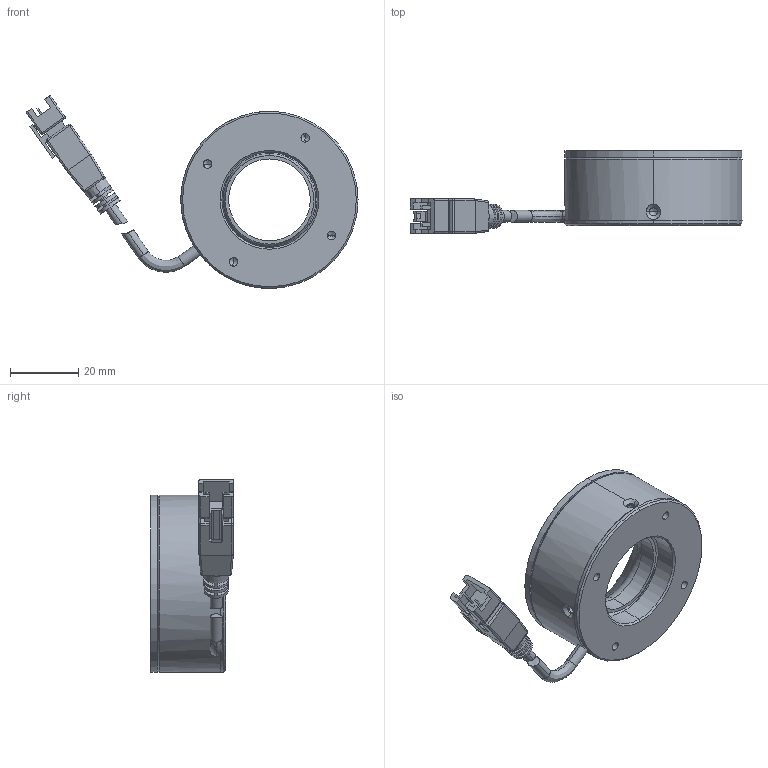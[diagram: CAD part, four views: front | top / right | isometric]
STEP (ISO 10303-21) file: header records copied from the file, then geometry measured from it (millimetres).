
FILE_DESCRIPTION (( 'STEP AP203' ), '1' );
FILE_NAME ('P-RL-52-45-2-00.STEP', '2026-03-13T07:13:45', ( '' ), ( '' ), 'SwSTEP 2.0', 'SolidWorks 2022', '' );
FILE_SCHEMA (( 'CONFIG_CONTROL_DESIGN' ));
Length unit declared in the file: millimetre
Products named in the file (6): P-RL-52-45-2-002; 光源线; P-RL-52-45-2-003; 灯珠-00; P-RL-52-45-2-00; P-RL-52-45-2-001
Assembly tree (5 placements, depth 2):
  P-RL-52-45-2-00
    P-RL-52-45-2-001
    P-RL-52-45-2-002
    P-RL-52-45-2-003
    灯珠-00
    光源线
Bounding box: 97.47 x 24.31 x 56.62 mm (x, y, z)
Volume: 21088.6 mm3; surface area: 21549.9 mm2
Topology: 7 solids, 7 shells, 365 faces, 907 edges, 538 vertices
Faces by surface type: plane 131, cylinder 122, cone 68, torus 24, bspline 20
Entity records: 12320 total; most frequent: CARTESIAN_POINT 3236, DIRECTION 1792, ORIENTED_EDGE 1742, EDGE_CURVE 871, AXIS2_PLACEMENT_3D 668, VERTEX_POINT 538, LINE 456, VECTOR 456
